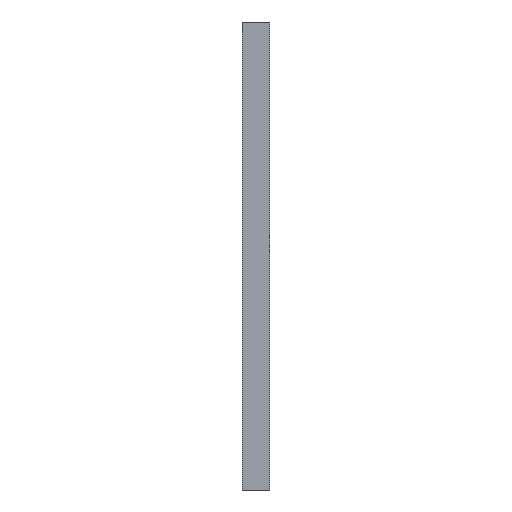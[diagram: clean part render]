
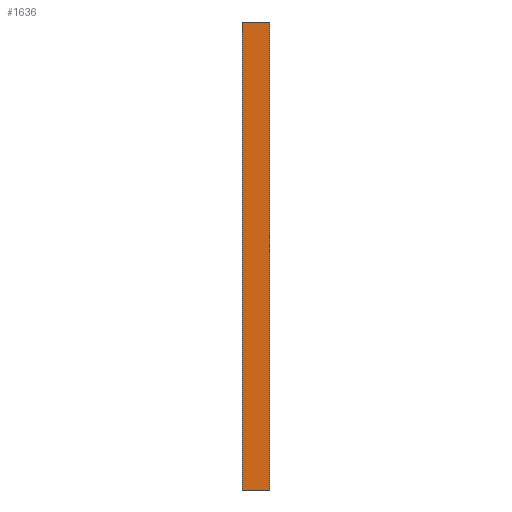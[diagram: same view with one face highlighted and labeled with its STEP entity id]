
A CAD part, front view. The second image highlights one B-rep face of the part: STEP entity #1636.
In plain terms, the highlighted planar face has unit normal (0, -1, 0).
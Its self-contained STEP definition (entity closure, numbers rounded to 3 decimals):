
#146 = VECTOR ( 'NONE', #2822, 1000. ) ;
#151 = CARTESIAN_POINT ( 'NONE',  ( -24., 0., -43. ) ) ;
#289 = ORIENTED_EDGE ( 'NONE', *, *, #1823, .F. ) ;
#386 = EDGE_CURVE ( 'NONE', #2216, #506, #412, .T. ) ;
#412 = LINE ( 'NONE', #1967, #1281 ) ;
#490 = CARTESIAN_POINT ( 'NONE',  ( -21.5, 0., 0. ) ) ;
#506 = VERTEX_POINT ( 'NONE', #2014 ) ;
#727 = DIRECTION ( 'NONE',  ( 0., -1., 0. ) ) ;
#758 = LINE ( 'NONE', #1037, #146 ) ;
#968 = CARTESIAN_POINT ( 'NONE',  ( 0., 0., 0. ) ) ;
#1021 = FACE_OUTER_BOUND ( 'NONE', #2473, .T. ) ;
#1033 = LINE ( 'NONE', #490, #1654 ) ;
#1037 = CARTESIAN_POINT ( 'NONE',  ( -24., 0., -45.5 ) ) ;
#1161 = VECTOR ( 'NONE', #1257, 1000. ) ;
#1219 = PLANE ( 'NONE',  #2578 ) ;
#1257 = DIRECTION ( 'NONE',  ( -1., 0., 0. ) ) ;
#1281 = VECTOR ( 'NONE', #1992, 1000. ) ;
#1283 = CARTESIAN_POINT ( 'NONE',  ( -24., 0., 0. ) ) ;
#1375 = CARTESIAN_POINT ( 'NONE',  ( -21.5, 0., 0. ) ) ;
#1606 = DIRECTION ( 'NONE',  ( -1., 0., 0. ) ) ;
#1636 = ADVANCED_FACE ( 'NONE', ( #1021 ), #1219, .T. ) ;
#1654 = VECTOR ( 'NONE', #1606, 1000. ) ;
#1692 = ORIENTED_EDGE ( 'NONE', *, *, #386, .F. ) ;
#1704 = ORIENTED_EDGE ( 'NONE', *, *, #2753, .F. ) ;
#1823 = EDGE_CURVE ( 'NONE', #2891, #2892, #758, .T. ) ;
#1825 = CARTESIAN_POINT ( 'NONE',  ( -21.5, 0., -43. ) ) ;
#1841 = DIRECTION ( 'NONE',  ( 0., 0., -1. ) ) ;
#1967 = CARTESIAN_POINT ( 'NONE',  ( -21.5, 0., 0. ) ) ;
#1992 = DIRECTION ( 'NONE',  ( 0., 0., -1. ) ) ;
#2014 = CARTESIAN_POINT ( 'NONE',  ( -21.5, 0., -43. ) ) ;
#2145 = ORIENTED_EDGE ( 'NONE', *, *, #2239, .T. ) ;
#2216 = VERTEX_POINT ( 'NONE', #1375 ) ;
#2239 = EDGE_CURVE ( 'NONE', #2216, #2892, #1033, .T. ) ;
#2473 = EDGE_LOOP ( 'NONE', ( #1692, #2145, #289, #1704 ) ) ;
#2578 = AXIS2_PLACEMENT_3D ( 'NONE', #968, #727, #1841 ) ;
#2662 = LINE ( 'NONE', #1825, #1161 ) ;
#2753 = EDGE_CURVE ( 'NONE', #506, #2891, #2662, .T. ) ;
#2822 = DIRECTION ( 'NONE',  ( 0., 0., 1. ) ) ;
#2891 = VERTEX_POINT ( 'NONE', #151 ) ;
#2892 = VERTEX_POINT ( 'NONE', #1283 ) ;
